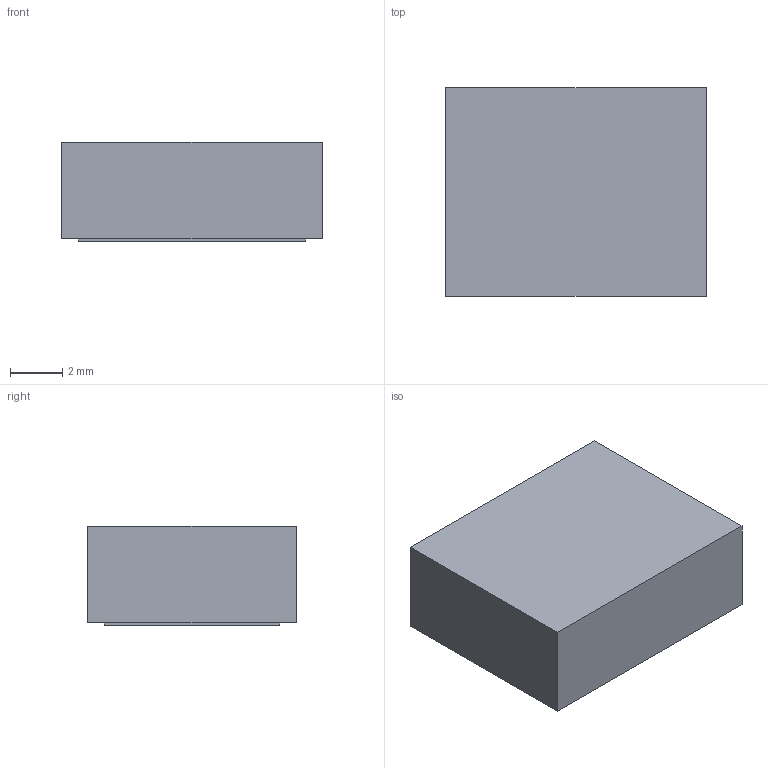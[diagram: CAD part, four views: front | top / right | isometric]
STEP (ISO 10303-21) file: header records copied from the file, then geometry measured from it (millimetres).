
FILE_DESCRIPTION(('FreeCAD Model'),'2;1');
FILE_NAME('/var/www/3D/0T/739935.1.2.stp','2020-04-09T08:27:03',( 'Author'),(''),'Open CASCADE STEP processor 6.9','FreeCAD','Unknown' );
FILE_SCHEMA(('AUTOMOTIVE_DESIGN { 1 0 10303 214 1 1 1 1 }'));
Length unit declared in the file: millimetre
Products named in the file (3): ASSEMBLY; Body; Pins
Assembly tree (2 placements, depth 2):
  ASSEMBLY
    Body
    Pins
Bounding box: 10 x 8 x 3.8 mm (x, y, z)
Volume: 301.9 mm3; surface area: 413.5 mm2
Topology: 2 solids, 2 shells, 12 faces, 24 edges, 16 vertices
Faces by surface type: plane 12
Entity records: 686 total; most frequent: CARTESIAN_POINT 103, DIRECTION 102, LINE 72, VECTOR 72, ORIENTED_EDGE 48, PCURVE 48, DEFINITIONAL_REPRESENTATION 48, EDGE_CURVE 24
